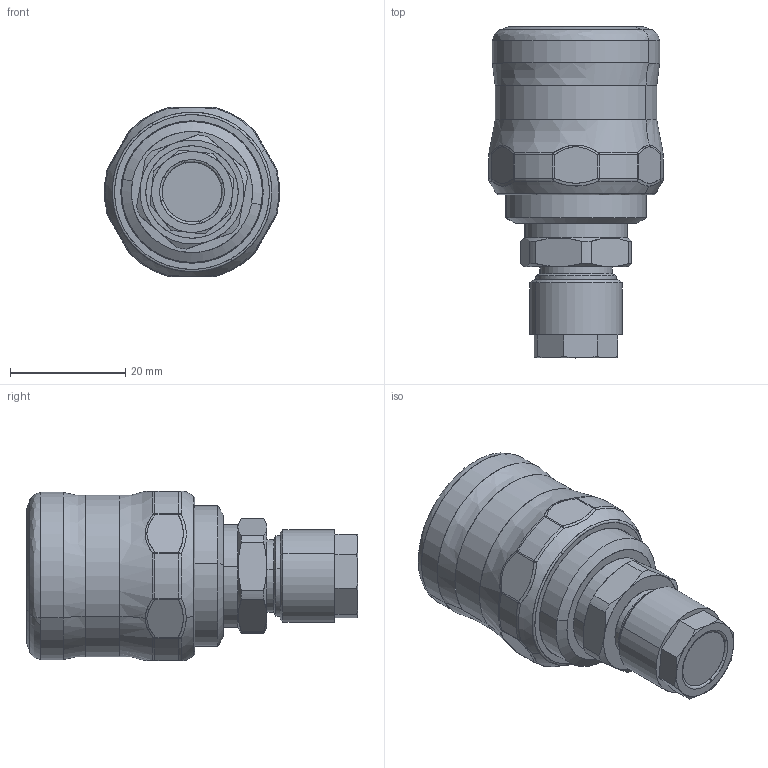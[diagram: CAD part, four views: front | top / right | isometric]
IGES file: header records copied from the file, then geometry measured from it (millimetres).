
Start section: SolidWorks IGES file using analytic representation for surfaces
Global section: file name: K:\Disegni Esecutivi\Serie 600\ASSIEMI\664\664_iges\0066400005A.IGS; native system: SolidWorks 2009; preprocessor: SolidWorks 2009; author: cad05; date: 090709.103646; units: millimetre
Bounding box: 30.29 x 57.5 x 29.4 mm (x, y, z)
Surface area: 6085.5 mm2 (no closed solid volume)
Topology: 0 solids, 0 shells, 197 faces, 2057 edges, 2057 vertices
Faces by surface type: revolution 120, bspline 77
